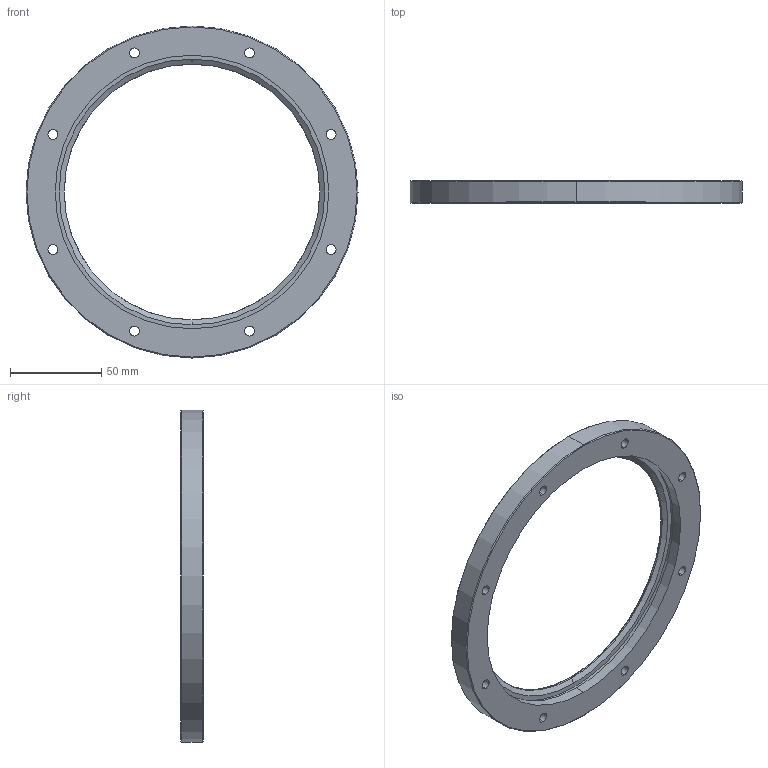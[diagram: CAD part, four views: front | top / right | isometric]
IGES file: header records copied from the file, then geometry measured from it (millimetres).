
Start section: 3D InterOp IGES (v. 2020 1.0.1), Spatial Corp. Copyright (c) 1999-2017.
Global section: file name: ris_182_r360.igs; native system: Spatial Corp.; preprocessor: 3D InterOp ACIS/IGES; author: TraceParts; organization: TraceParts S.A.; date: 20220624.060116; units: millimetre
Bounding box: 182 x 12.25 x 182 mm (x, y, z)
Surface area: 34755.7 mm2 (no closed solid volume)
Topology: 0 solids, 0 shells, 62 faces, 280 edges, 280 vertices
Faces by surface type: revolution 50, extrusion 12
